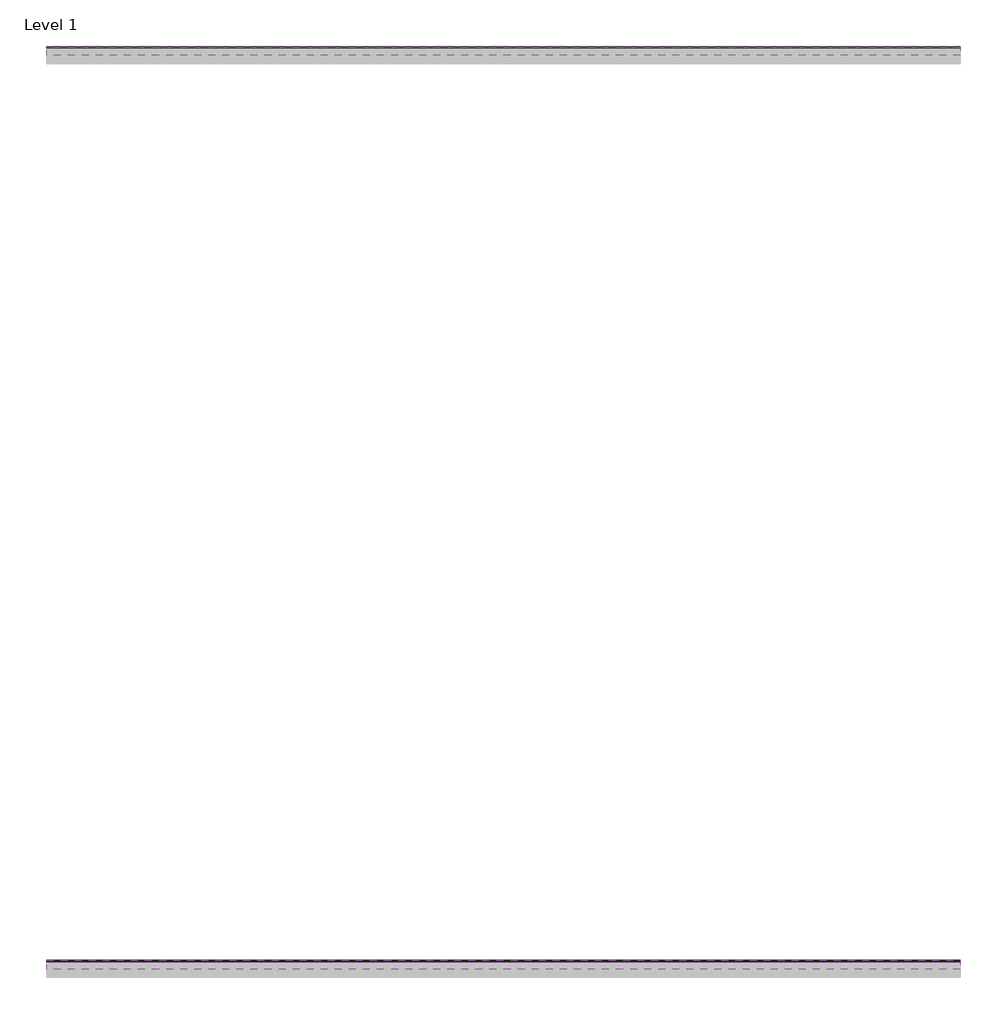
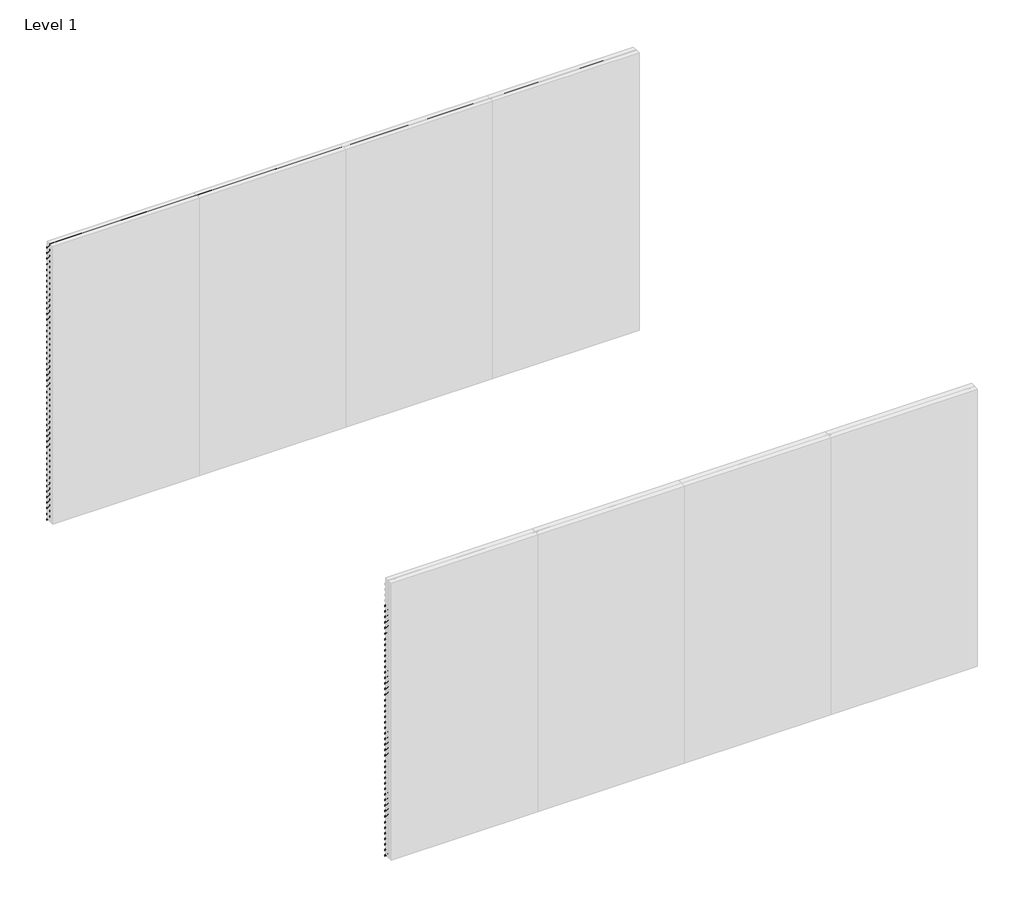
# One storey, part 3 of 3: 96 proxies.
"""IFC4 building model written with IfcOpenShell, lengths in millimetres."""

from ifc_helpers import new_model, si_unit, frame, origin, place, context, project, spatial, polyline, outline, extrude, element, save

model = new_model("IFC4")

# Units and contexts
model_context = context("Model", 3, world=origin())
ifc_project = project(units=[si_unit("LENGTHUNIT", "METRE", prefix="MILLI")], contexts=[model_context])

# Site, building, storey
site = spatial("IfcSite", under=ifc_project)
building = spatial("IfcBuilding", under=site)
storey = spatial("IfcBuildingStorey", under=building, Name="Level 1", Elevation=0.0)

# Proxies
placement = place(None, origin())
element("IfcBuildingElementProxy", 1, Name="Wall Sweeps", at=placement, inside=storey, context=model_context, shape_type="SweptSolid", body=[
    extrude(outline(polyline([(-1995.0, 3000.0), (-1995.0, 2998.0), (-1938.8, 2932.7), (-1938.8, 2916.7), (-1997.0, 2984.3238434), (-1997.0, 3000.0), (-1995.0, 3000.0)])), frame((0.0, 0.0, 0.0), z_axis=(1.0, 0.0, 0.0), x_axis=(0.0, 1.0, 0.0)), (0.0, 0.0, 1.0), 6000.0),
])
element("IfcBuildingElementProxy", 2, Name="Wall Sweeps", at=placement, inside=storey, context=model_context, shape_type="SweptSolid", body=[
    extrude(outline(polyline([(-1995.0, 2940.0), (-1995.0, 2938.0), (-1938.8, 2872.7), (-1938.8, 2856.7), (-1997.0, 2924.3238434), (-1997.0, 2940.0), (-1995.0, 2940.0)])), frame((0.0, 0.0, 0.0), z_axis=(1.0, 0.0, 0.0), x_axis=(0.0, 1.0, 0.0)), (0.0, 0.0, 1.0), 6000.0),
])
element("IfcBuildingElementProxy", 3, Name="Wall Sweeps", at=placement, inside=storey, context=model_context, shape_type="SweptSolid", body=[
    extrude(outline(polyline([(-1995.0, 2880.0), (-1995.0, 2878.0), (-1938.8, 2812.7), (-1938.8, 2796.7), (-1997.0, 2864.3238434), (-1997.0, 2880.0), (-1995.0, 2880.0)])), frame((0.0, 0.0, 0.0), z_axis=(1.0, 0.0, 0.0), x_axis=(0.0, 1.0, 0.0)), (0.0, 0.0, 1.0), 6000.0),
])
element("IfcBuildingElementProxy", 4, Name="Wall Sweeps", at=placement, inside=storey, context=model_context, shape_type="SweptSolid", body=[
    extrude(outline(polyline([(-1995.0, 2820.0), (-1995.0, 2818.0), (-1938.8, 2752.7), (-1938.8, 2736.7), (-1997.0, 2804.3238434), (-1997.0, 2820.0), (-1995.0, 2820.0)])), frame((0.0, 0.0, 0.0), z_axis=(1.0, 0.0, 0.0), x_axis=(0.0, 1.0, 0.0)), (0.0, 0.0, 1.0), 6000.0),
])
element("IfcBuildingElementProxy", 5, Name="Wall Sweeps", at=placement, inside=storey, context=model_context, shape_type="SweptSolid", body=[
    extrude(outline(polyline([(-1995.0, 2760.0), (-1995.0, 2758.0), (-1938.8, 2692.7), (-1938.8, 2676.7), (-1997.0, 2744.3238434), (-1997.0, 2760.0), (-1995.0, 2760.0)])), frame((0.0, 0.0, 0.0), z_axis=(1.0, 0.0, 0.0), x_axis=(0.0, 1.0, 0.0)), (0.0, 0.0, 1.0), 6000.0),
])
element("IfcBuildingElementProxy", 6, Name="Wall Sweeps", at=placement, inside=storey, context=model_context, shape_type="SweptSolid", body=[
    extrude(outline(polyline([(-1995.0, 2700.0), (-1995.0, 2698.0), (-1938.8, 2632.7), (-1938.8, 2616.7), (-1997.0, 2684.3238434), (-1997.0, 2700.0), (-1995.0, 2700.0)])), frame((0.0, 0.0, 0.0), z_axis=(1.0, 0.0, 0.0), x_axis=(0.0, 1.0, 0.0)), (0.0, 0.0, 1.0), 6000.0),
])
element("IfcBuildingElementProxy", 7, Name="Wall Sweeps", at=placement, inside=storey, context=model_context, shape_type="SweptSolid", body=[
    extrude(outline(polyline([(-1995.0, 2640.0), (-1995.0, 2638.0), (-1938.8, 2572.7), (-1938.8, 2556.7), (-1997.0, 2624.3238434), (-1997.0, 2640.0), (-1995.0, 2640.0)])), frame((0.0, 0.0, 0.0), z_axis=(1.0, 0.0, 0.0), x_axis=(0.0, 1.0, 0.0)), (0.0, 0.0, 1.0), 6000.0),
])
element("IfcBuildingElementProxy", 8, Name="Wall Sweeps", at=placement, inside=storey, context=model_context, shape_type="SweptSolid", body=[
    extrude(outline(polyline([(-1995.0, 2580.0), (-1995.0, 2578.0), (-1938.8, 2512.7), (-1938.8, 2496.7), (-1997.0, 2564.3238434), (-1997.0, 2580.0), (-1995.0, 2580.0)])), frame((0.0, 0.0, 0.0), z_axis=(1.0, 0.0, 0.0), x_axis=(0.0, 1.0, 0.0)), (0.0, 0.0, 1.0), 6000.0),
])
element("IfcBuildingElementProxy", 9, Name="Wall Sweeps", at=placement, inside=storey, context=model_context, shape_type="SweptSolid", body=[
    extrude(outline(polyline([(-1995.0, 2520.0), (-1995.0, 2518.0), (-1938.8, 2452.7), (-1938.8, 2436.7), (-1997.0, 2504.3238434), (-1997.0, 2520.0), (-1995.0, 2520.0)])), frame((0.0, 0.0, 0.0), z_axis=(1.0, 0.0, 0.0), x_axis=(0.0, 1.0, 0.0)), (0.0, 0.0, 1.0), 6000.0),
])
element("IfcBuildingElementProxy", 10, Name="Wall Sweeps", at=placement, inside=storey, context=model_context, shape_type="SweptSolid", body=[
    extrude(outline(polyline([(-1995.0, 2460.0), (-1995.0, 2458.0), (-1938.8, 2392.7), (-1938.8, 2376.7), (-1997.0, 2444.3238434), (-1997.0, 2460.0), (-1995.0, 2460.0)])), frame((0.0, 0.0, 0.0), z_axis=(1.0, 0.0, 0.0), x_axis=(0.0, 1.0, 0.0)), (0.0, 0.0, 1.0), 6000.0),
])
element("IfcBuildingElementProxy", 11, Name="Wall Sweeps", at=placement, inside=storey, context=model_context, shape_type="SweptSolid", body=[
    extrude(outline(polyline([(-1995.0, 2400.0), (-1995.0, 2398.0), (-1938.8, 2332.7), (-1938.8, 2316.7), (-1997.0, 2384.3238434), (-1997.0, 2400.0), (-1995.0, 2400.0)])), frame((0.0, 0.0, 0.0), z_axis=(1.0, 0.0, 0.0), x_axis=(0.0, 1.0, 0.0)), (0.0, 0.0, 1.0), 6000.0),
])
element("IfcBuildingElementProxy", 12, Name="Wall Sweeps", at=placement, inside=storey, context=model_context, shape_type="SweptSolid", body=[
    extrude(outline(polyline([(-1995.0, 2340.0), (-1995.0, 2338.0), (-1938.8, 2272.7), (-1938.8, 2256.7), (-1997.0, 2324.3238434), (-1997.0, 2340.0), (-1995.0, 2340.0)])), frame((0.0, 0.0, 0.0), z_axis=(1.0, 0.0, 0.0), x_axis=(0.0, 1.0, 0.0)), (0.0, 0.0, 1.0), 6000.0),
])
element("IfcBuildingElementProxy", 13, Name="Wall Sweeps", at=placement, inside=storey, context=model_context, shape_type="SweptSolid", body=[
    extrude(outline(polyline([(-1995.0, 2280.0), (-1995.0, 2278.0), (-1938.8, 2212.7), (-1938.8, 2196.7), (-1997.0, 2264.3238434), (-1997.0, 2280.0), (-1995.0, 2280.0)])), frame((0.0, 0.0, 0.0), z_axis=(1.0, 0.0, 0.0), x_axis=(0.0, 1.0, 0.0)), (0.0, 0.0, 1.0), 6000.0),
])
element("IfcBuildingElementProxy", 14, Name="Wall Sweeps", at=placement, inside=storey, context=model_context, shape_type="SweptSolid", body=[
    extrude(outline(polyline([(-1995.0, 2220.0), (-1995.0, 2218.0), (-1938.8, 2152.7), (-1938.8, 2136.7), (-1997.0, 2204.3238434), (-1997.0, 2220.0), (-1995.0, 2220.0)])), frame((0.0, 0.0, 0.0), z_axis=(1.0, 0.0, 0.0), x_axis=(0.0, 1.0, 0.0)), (0.0, 0.0, 1.0), 6000.0),
])
element("IfcBuildingElementProxy", 15, Name="Wall Sweeps", at=placement, inside=storey, context=model_context, shape_type="SweptSolid", body=[
    extrude(outline(polyline([(-1995.0, 2160.0), (-1995.0, 2158.0), (-1938.8, 2092.7), (-1938.8, 2076.7), (-1997.0, 2144.3238434), (-1997.0, 2160.0), (-1995.0, 2160.0)])), frame((0.0, 0.0, 0.0), z_axis=(1.0, 0.0, 0.0), x_axis=(0.0, 1.0, 0.0)), (0.0, 0.0, 1.0), 6000.0),
])
element("IfcBuildingElementProxy", 16, Name="Wall Sweeps", at=placement, inside=storey, context=model_context, shape_type="SweptSolid", body=[
    extrude(outline(polyline([(-1995.0, 2100.0), (-1995.0, 2098.0), (-1938.8, 2032.7), (-1938.8, 2016.7), (-1997.0, 2084.3238434), (-1997.0, 2100.0), (-1995.0, 2100.0)])), frame((0.0, 0.0, 0.0), z_axis=(1.0, 0.0, 0.0), x_axis=(0.0, 1.0, 0.0)), (0.0, 0.0, 1.0), 6000.0),
])
element("IfcBuildingElementProxy", 17, Name="Wall Sweeps", at=placement, inside=storey, context=model_context, shape_type="SweptSolid", body=[
    extrude(outline(polyline([(-1995.0, 2040.0), (-1995.0, 2038.0), (-1938.8, 1972.7), (-1938.8, 1956.7), (-1997.0, 2024.3238434), (-1997.0, 2040.0), (-1995.0, 2040.0)])), frame((0.0, 0.0, 0.0), z_axis=(1.0, 0.0, 0.0), x_axis=(0.0, 1.0, 0.0)), (0.0, 0.0, 1.0), 6000.0),
])
element("IfcBuildingElementProxy", 18, Name="Wall Sweeps", at=placement, inside=storey, context=model_context, shape_type="SweptSolid", body=[
    extrude(outline(polyline([(-1995.0, 1980.0), (-1995.0, 1978.0), (-1938.8, 1912.7), (-1938.8, 1896.7), (-1997.0, 1964.3238434), (-1997.0, 1980.0), (-1995.0, 1980.0)])), frame((0.0, 0.0, 0.0), z_axis=(1.0, 0.0, 0.0), x_axis=(0.0, 1.0, 0.0)), (0.0, 0.0, 1.0), 6000.0),
])
element("IfcBuildingElementProxy", 19, Name="Wall Sweeps", at=placement, inside=storey, context=model_context, shape_type="SweptSolid", body=[
    extrude(outline(polyline([(-1995.0, 1920.0), (-1995.0, 1918.0), (-1938.8, 1852.7), (-1938.8, 1836.7), (-1997.0, 1904.3238434), (-1997.0, 1920.0), (-1995.0, 1920.0)])), frame((0.0, 0.0, 0.0), z_axis=(1.0, 0.0, 0.0), x_axis=(0.0, 1.0, 0.0)), (0.0, 0.0, 1.0), 6000.0),
])
element("IfcBuildingElementProxy", 20, Name="Wall Sweeps", at=placement, inside=storey, context=model_context, shape_type="SweptSolid", body=[
    extrude(outline(polyline([(-1995.0, 1860.0), (-1995.0, 1858.0), (-1938.8, 1792.7), (-1938.8, 1776.7), (-1997.0, 1844.3238434), (-1997.0, 1860.0), (-1995.0, 1860.0)])), frame((0.0, 0.0, 0.0), z_axis=(1.0, 0.0, 0.0), x_axis=(0.0, 1.0, 0.0)), (0.0, 0.0, 1.0), 6000.0),
])
element("IfcBuildingElementProxy", 21, Name="Wall Sweeps", at=placement, inside=storey, context=model_context, shape_type="SweptSolid", body=[
    extrude(outline(polyline([(-1995.0, 1800.0), (-1995.0, 1798.0), (-1938.8, 1732.7), (-1938.8, 1716.7), (-1997.0, 1784.3238434), (-1997.0, 1800.0), (-1995.0, 1800.0)])), frame((0.0, 0.0, 0.0), z_axis=(1.0, 0.0, 0.0), x_axis=(0.0, 1.0, 0.0)), (0.0, 0.0, 1.0), 6000.0),
])
element("IfcBuildingElementProxy", 22, Name="Wall Sweeps", at=placement, inside=storey, context=model_context, shape_type="SweptSolid", body=[
    extrude(outline(polyline([(-1995.0, 1740.0), (-1995.0, 1738.0), (-1938.8, 1672.7), (-1938.8, 1656.7), (-1997.0, 1724.3238434), (-1997.0, 1740.0), (-1995.0, 1740.0)])), frame((0.0, 0.0, 0.0), z_axis=(1.0, 0.0, 0.0), x_axis=(0.0, 1.0, 0.0)), (0.0, 0.0, 1.0), 6000.0),
])
element("IfcBuildingElementProxy", 23, Name="Wall Sweeps", at=placement, inside=storey, context=model_context, shape_type="SweptSolid", body=[
    extrude(outline(polyline([(-1995.0, 1680.0), (-1995.0, 1678.0), (-1938.8, 1612.7), (-1938.8, 1596.7), (-1997.0, 1664.3238434), (-1997.0, 1680.0), (-1995.0, 1680.0)])), frame((0.0, 0.0, 0.0), z_axis=(1.0, 0.0, 0.0), x_axis=(0.0, 1.0, 0.0)), (0.0, 0.0, 1.0), 6000.0),
])
element("IfcBuildingElementProxy", 24, Name="Wall Sweeps", at=placement, inside=storey, context=model_context, shape_type="SweptSolid", body=[
    extrude(outline(polyline([(-1995.0, 1620.0), (-1995.0, 1618.0), (-1938.8, 1552.7), (-1938.8, 1536.7), (-1997.0, 1604.3238434), (-1997.0, 1620.0), (-1995.0, 1620.0)])), frame((0.0, 0.0, 0.0), z_axis=(1.0, 0.0, 0.0), x_axis=(0.0, 1.0, 0.0)), (0.0, 0.0, 1.0), 6000.0),
])
element("IfcBuildingElementProxy", 25, Name="Wall Sweeps", at=placement, inside=storey, context=model_context, shape_type="SweptSolid", body=[
    extrude(outline(polyline([(-1995.0, 1560.0), (-1995.0, 1558.0), (-1938.8, 1492.7), (-1938.8, 1476.7), (-1997.0, 1544.3238434), (-1997.0, 1560.0), (-1995.0, 1560.0)])), frame((0.0, 0.0, 0.0), z_axis=(1.0, 0.0, 0.0), x_axis=(0.0, 1.0, 0.0)), (0.0, 0.0, 1.0), 6000.0),
])
element("IfcBuildingElementProxy", 26, Name="Wall Sweeps", at=placement, inside=storey, context=model_context, shape_type="SweptSolid", body=[
    extrude(outline(polyline([(-1995.0, 1500.0), (-1995.0, 1498.0), (-1938.8, 1432.7), (-1938.8, 1416.7), (-1997.0, 1484.3238434), (-1997.0, 1500.0), (-1995.0, 1500.0)])), frame((0.0, 0.0, 0.0), z_axis=(1.0, 0.0, 0.0), x_axis=(0.0, 1.0, 0.0)), (0.0, 0.0, 1.0), 6000.0),
])
element("IfcBuildingElementProxy", 27, Name="Wall Sweeps", at=placement, inside=storey, context=model_context, shape_type="SweptSolid", body=[
    extrude(outline(polyline([(-1995.0, 1440.0), (-1995.0, 1438.0), (-1938.8, 1372.7), (-1938.8, 1356.7), (-1997.0, 1424.3238434), (-1997.0, 1440.0), (-1995.0, 1440.0)])), frame((0.0, 0.0, 0.0), z_axis=(1.0, 0.0, 0.0), x_axis=(0.0, 1.0, 0.0)), (0.0, 0.0, 1.0), 6000.0),
])
element("IfcBuildingElementProxy", 28, Name="Wall Sweeps", at=placement, inside=storey, context=model_context, shape_type="SweptSolid", body=[
    extrude(outline(polyline([(-1995.0, 1380.0), (-1995.0, 1378.0), (-1938.8, 1312.7), (-1938.8, 1296.7), (-1997.0, 1364.3238434), (-1997.0, 1380.0), (-1995.0, 1380.0)])), frame((0.0, 0.0, 0.0), z_axis=(1.0, 0.0, 0.0), x_axis=(0.0, 1.0, 0.0)), (0.0, 0.0, 1.0), 6000.0),
])
element("IfcBuildingElementProxy", 29, Name="Wall Sweeps", at=placement, inside=storey, context=model_context, shape_type="SweptSolid", body=[
    extrude(outline(polyline([(-1995.0, 1320.0), (-1995.0, 1318.0), (-1938.8, 1252.7), (-1938.8, 1236.7), (-1997.0, 1304.3238434), (-1997.0, 1320.0), (-1995.0, 1320.0)])), frame((0.0, 0.0, 0.0), z_axis=(1.0, 0.0, 0.0), x_axis=(0.0, 1.0, 0.0)), (0.0, 0.0, 1.0), 6000.0),
])
element("IfcBuildingElementProxy", 30, Name="Wall Sweeps", at=placement, inside=storey, context=model_context, shape_type="SweptSolid", body=[
    extrude(outline(polyline([(-1995.0, 1260.0), (-1995.0, 1258.0), (-1938.8, 1192.7), (-1938.8, 1176.7), (-1997.0, 1244.3238434), (-1997.0, 1260.0), (-1995.0, 1260.0)])), frame((0.0, 0.0, 0.0), z_axis=(1.0, 0.0, 0.0), x_axis=(0.0, 1.0, 0.0)), (0.0, 0.0, 1.0), 6000.0),
])
element("IfcBuildingElementProxy", 31, Name="Wall Sweeps", at=placement, inside=storey, context=model_context, shape_type="SweptSolid", body=[
    extrude(outline(polyline([(-1995.0, 1200.0), (-1995.0, 1198.0), (-1938.8, 1132.7), (-1938.8, 1116.7), (-1997.0, 1184.3238434), (-1997.0, 1200.0), (-1995.0, 1200.0)])), frame((0.0, 0.0, 0.0), z_axis=(1.0, 0.0, 0.0), x_axis=(0.0, 1.0, 0.0)), (0.0, 0.0, 1.0), 6000.0),
])
element("IfcBuildingElementProxy", 32, Name="Wall Sweeps", at=placement, inside=storey, context=model_context, shape_type="SweptSolid", body=[
    extrude(outline(polyline([(-1995.0, 1140.0), (-1995.0, 1138.0), (-1938.8, 1072.7), (-1938.8, 1056.7), (-1997.0, 1124.3238434), (-1997.0, 1140.0), (-1995.0, 1140.0)])), frame((0.0, 0.0, 0.0), z_axis=(1.0, 0.0, 0.0), x_axis=(0.0, 1.0, 0.0)), (0.0, 0.0, 1.0), 6000.0),
])
element("IfcBuildingElementProxy", 33, Name="Wall Sweeps", at=placement, inside=storey, context=model_context, shape_type="SweptSolid", body=[
    extrude(outline(polyline([(-1995.0, 1080.0), (-1995.0, 1078.0), (-1938.8, 1012.7), (-1938.8, 996.7), (-1997.0, 1064.3238434), (-1997.0, 1080.0), (-1995.0, 1080.0)])), frame((0.0, 0.0, 0.0), z_axis=(1.0, 0.0, 0.0), x_axis=(0.0, 1.0, 0.0)), (0.0, 0.0, 1.0), 6000.0),
])
element("IfcBuildingElementProxy", 34, Name="Wall Sweeps", at=placement, inside=storey, context=model_context, shape_type="SweptSolid", body=[
    extrude(outline(polyline([(-1995.0, 1020.0), (-1995.0, 1018.0), (-1938.8, 952.7), (-1938.8, 936.7), (-1997.0, 1004.3238434), (-1997.0, 1020.0), (-1995.0, 1020.0)])), frame((0.0, 0.0, 0.0), z_axis=(1.0, 0.0, 0.0), x_axis=(0.0, 1.0, 0.0)), (0.0, 0.0, 1.0), 6000.0),
])
element("IfcBuildingElementProxy", 35, Name="Wall Sweeps", at=placement, inside=storey, context=model_context, shape_type="SweptSolid", body=[
    extrude(outline(polyline([(-1995.0, 960.0), (-1995.0, 958.0), (-1938.8, 892.7), (-1938.8, 876.7), (-1997.0, 944.3238434), (-1997.0, 960.0), (-1995.0, 960.0)])), frame((0.0, 0.0, 0.0), z_axis=(1.0, 0.0, 0.0), x_axis=(0.0, 1.0, 0.0)), (0.0, 0.0, 1.0), 6000.0),
])
element("IfcBuildingElementProxy", 36, Name="Wall Sweeps", at=placement, inside=storey, context=model_context, shape_type="SweptSolid", body=[
    extrude(outline(polyline([(-1995.0, 900.0), (-1995.0, 898.0), (-1938.8, 832.7), (-1938.8, 816.7), (-1997.0, 884.3238434), (-1997.0, 900.0), (-1995.0, 900.0)])), frame((0.0, 0.0, 0.0), z_axis=(1.0, 0.0, 0.0), x_axis=(0.0, 1.0, 0.0)), (0.0, 0.0, 1.0), 6000.0),
])
element("IfcBuildingElementProxy", 37, Name="Wall Sweeps", at=placement, inside=storey, context=model_context, shape_type="SweptSolid", body=[
    extrude(outline(polyline([(-1995.0, 840.0), (-1995.0, 838.0), (-1938.8, 772.7), (-1938.8, 756.7), (-1997.0, 824.3238434), (-1997.0, 840.0), (-1995.0, 840.0)])), frame((0.0, 0.0, 0.0), z_axis=(1.0, 0.0, 0.0), x_axis=(0.0, 1.0, 0.0)), (0.0, 0.0, 1.0), 6000.0),
])
element("IfcBuildingElementProxy", 38, Name="Wall Sweeps", at=placement, inside=storey, context=model_context, shape_type="SweptSolid", body=[
    extrude(outline(polyline([(-1995.0, 780.0), (-1995.0, 778.0), (-1938.8, 712.7), (-1938.8, 696.7), (-1997.0, 764.3238434), (-1997.0, 780.0), (-1995.0, 780.0)])), frame((0.0, 0.0, 0.0), z_axis=(1.0, 0.0, 0.0), x_axis=(0.0, 1.0, 0.0)), (0.0, 0.0, 1.0), 6000.0),
])
element("IfcBuildingElementProxy", 39, Name="Wall Sweeps", at=placement, inside=storey, context=model_context, shape_type="SweptSolid", body=[
    extrude(outline(polyline([(-1995.0, 720.0), (-1995.0, 718.0), (-1938.8, 652.7), (-1938.8, 636.7), (-1997.0, 704.3238434), (-1997.0, 720.0), (-1995.0, 720.0)])), frame((0.0, 0.0, 0.0), z_axis=(1.0, 0.0, 0.0), x_axis=(0.0, 1.0, 0.0)), (0.0, 0.0, 1.0), 6000.0),
])
element("IfcBuildingElementProxy", 40, Name="Wall Sweeps", at=placement, inside=storey, context=model_context, shape_type="SweptSolid", body=[
    extrude(outline(polyline([(-1995.0, 660.0), (-1995.0, 658.0), (-1938.8, 592.7), (-1938.8, 576.7), (-1997.0, 644.3238434), (-1997.0, 660.0), (-1995.0, 660.0)])), frame((0.0, 0.0, 0.0), z_axis=(1.0, 0.0, 0.0), x_axis=(0.0, 1.0, 0.0)), (0.0, 0.0, 1.0), 6000.0),
])
element("IfcBuildingElementProxy", 41, Name="Wall Sweeps", at=placement, inside=storey, context=model_context, shape_type="SweptSolid", body=[
    extrude(outline(polyline([(-1995.0, 600.0), (-1995.0, 598.0), (-1938.8, 532.7), (-1938.8, 516.7), (-1997.0, 584.3238434), (-1997.0, 600.0), (-1995.0, 600.0)])), frame((0.0, 0.0, 0.0), z_axis=(1.0, 0.0, 0.0), x_axis=(0.0, 1.0, 0.0)), (0.0, 0.0, 1.0), 6000.0),
])
element("IfcBuildingElementProxy", 42, Name="Wall Sweeps", at=placement, inside=storey, context=model_context, shape_type="SweptSolid", body=[
    extrude(outline(polyline([(-1995.0, 540.0), (-1995.0, 538.0), (-1938.8, 472.7), (-1938.8, 456.7), (-1997.0, 524.3238434), (-1997.0, 540.0), (-1995.0, 540.0)])), frame((0.0, 0.0, 0.0), z_axis=(1.0, 0.0, 0.0), x_axis=(0.0, 1.0, 0.0)), (0.0, 0.0, 1.0), 6000.0),
])
element("IfcBuildingElementProxy", 43, Name="Wall Sweeps", at=placement, inside=storey, context=model_context, shape_type="SweptSolid", body=[
    extrude(outline(polyline([(-1995.0, 480.0), (-1995.0, 478.0), (-1938.8, 412.7), (-1938.8, 396.7), (-1997.0, 464.3238434), (-1997.0, 480.0), (-1995.0, 480.0)])), frame((0.0, 0.0, 0.0), z_axis=(1.0, 0.0, 0.0), x_axis=(0.0, 1.0, 0.0)), (0.0, 0.0, 1.0), 6000.0),
])
element("IfcBuildingElementProxy", 44, Name="Wall Sweeps", at=placement, inside=storey, context=model_context, shape_type="SweptSolid", body=[
    extrude(outline(polyline([(-1995.0, 420.0), (-1995.0, 418.0), (-1938.8, 352.7), (-1938.8, 336.7), (-1997.0, 404.3238434), (-1997.0, 420.0), (-1995.0, 420.0)])), frame((0.0, 0.0, 0.0), z_axis=(1.0, 0.0, 0.0), x_axis=(0.0, 1.0, 0.0)), (0.0, 0.0, 1.0), 6000.0),
])
element("IfcBuildingElementProxy", 45, Name="Wall Sweeps", at=placement, inside=storey, context=model_context, shape_type="SweptSolid", body=[
    extrude(outline(polyline([(-1995.0, 360.0), (-1995.0, 358.0), (-1938.8, 292.7), (-1938.8, 276.7), (-1997.0, 344.3238434), (-1997.0, 360.0), (-1995.0, 360.0)])), frame((0.0, 0.0, 0.0), z_axis=(1.0, 0.0, 0.0), x_axis=(0.0, 1.0, 0.0)), (0.0, 0.0, 1.0), 6000.0),
])
element("IfcBuildingElementProxy", 46, Name="Wall Sweeps", at=placement, inside=storey, context=model_context, shape_type="SweptSolid", body=[
    extrude(outline(polyline([(-1995.0, 300.0), (-1995.0, 298.0), (-1938.8, 232.7), (-1938.8, 216.7), (-1997.0, 284.3238434), (-1997.0, 300.0), (-1995.0, 300.0)])), frame((0.0, 0.0, 0.0), z_axis=(1.0, 0.0, 0.0), x_axis=(0.0, 1.0, 0.0)), (0.0, 0.0, 1.0), 6000.0),
])
element("IfcBuildingElementProxy", 47, Name="Wall Sweeps", at=placement, inside=storey, context=model_context, shape_type="SweptSolid", body=[
    extrude(outline(polyline([(-1995.0, 240.0), (-1995.0, 238.0), (-1938.8, 172.7), (-1938.8, 156.7), (-1997.0, 224.3238434), (-1997.0, 240.0), (-1995.0, 240.0)])), frame((0.0, 0.0, 0.0), z_axis=(1.0, 0.0, 0.0), x_axis=(0.0, 1.0, 0.0)), (0.0, 0.0, 1.0), 6000.0),
])
element("IfcBuildingElementProxy", 48, Name="Wall Sweeps", at=placement, inside=storey, context=model_context, shape_type="SweptSolid", body=[
    extrude(outline(polyline([(-1995.0, 180.0), (-1995.0, 178.0), (-1938.8, 112.7), (-1938.8, 96.7), (-1997.0, 164.3238434), (-1997.0, 180.0), (-1995.0, 180.0)])), frame((0.0, 0.0, 0.0), z_axis=(1.0, 0.0, 0.0), x_axis=(0.0, 1.0, 0.0)), (0.0, 0.0, 1.0), 6000.0),
])
element("IfcBuildingElementProxy", 49, Name="Wall Sweeps", at=placement, inside=storey, context=model_context, shape_type="SweptSolid", body=[
    extrude(outline(polyline([(-1995.0, 120.0), (-1995.0, 118.0), (-1938.8, 52.7), (-1938.8, 36.7), (-1997.0, 104.3238434), (-1997.0, 120.0), (-1995.0, 120.0)])), frame((0.0, 0.0, 0.0), z_axis=(1.0, 0.0, 0.0), x_axis=(0.0, 1.0, 0.0)), (0.0, 0.0, 1.0), 6000.0),
])
element("IfcBuildingElementProxy", 50, Name="Wall Sweeps", at=placement, inside=storey, context=model_context, shape_type="SweptSolid", body=[
    extrude(outline(polyline([(-1995.0, 60.0), (-1995.0, 58.0), (-1938.8, -7.3), (-1938.8, -23.3), (-1997.0, 44.3238434), (-1997.0, 60.0), (-1995.0, 60.0)])), frame((0.0, 0.0, 0.0), z_axis=(1.0, 0.0, 0.0), x_axis=(0.0, 1.0, 0.0)), (0.0, 0.0, 1.0), 6000.0),
])
element("IfcBuildingElementProxy", 51, Name="Wall Sweeps", at=placement, inside=storey, context=model_context, shape_type="SweptSolid", body=[
    extrude(outline(polyline([(-7995.0, 2760.0), (-7995.0, 2758.0), (-7938.8, 2692.7), (-7938.8, 2676.7), (-7997.0, 2744.3238434), (-7997.0, 2760.0), (-7995.0, 2760.0)])), frame((0.0, 0.0, 0.0), z_axis=(1.0, 0.0, 0.0), x_axis=(0.0, 1.0, 0.0)), (0.0, 0.0, 1.0), 6000.0),
])
element("IfcBuildingElementProxy", 52, Name="Wall Sweeps", at=placement, inside=storey, context=model_context, shape_type="SweptSolid", body=[
    extrude(outline(polyline([(-7995.0, 2700.0), (-7995.0, 2698.0), (-7938.8, 2632.7), (-7938.8, 2616.7), (-7997.0, 2684.3238434), (-7997.0, 2700.0), (-7995.0, 2700.0)])), frame((0.0, 0.0, 0.0), z_axis=(1.0, 0.0, 0.0), x_axis=(0.0, 1.0, 0.0)), (0.0, 0.0, 1.0), 6000.0),
])
element("IfcBuildingElementProxy", 53, Name="Wall Sweeps", at=placement, inside=storey, context=model_context, shape_type="SweptSolid", body=[
    extrude(outline(polyline([(-7995.0, 2640.0), (-7995.0, 2638.0), (-7938.8, 2572.7), (-7938.8, 2556.7), (-7997.0, 2624.3238434), (-7997.0, 2640.0), (-7995.0, 2640.0)])), frame((0.0, 0.0, 0.0), z_axis=(1.0, 0.0, 0.0), x_axis=(0.0, 1.0, 0.0)), (0.0, 0.0, 1.0), 6000.0),
])
element("IfcBuildingElementProxy", 54, Name="Wall Sweeps", at=placement, inside=storey, context=model_context, shape_type="SweptSolid", body=[
    extrude(outline(polyline([(-7995.0, 2580.0), (-7995.0, 2578.0), (-7938.8, 2512.7), (-7938.8, 2496.7), (-7997.0, 2564.3238434), (-7997.0, 2580.0), (-7995.0, 2580.0)])), frame((0.0, 0.0, 0.0), z_axis=(1.0, 0.0, 0.0), x_axis=(0.0, 1.0, 0.0)), (0.0, 0.0, 1.0), 6000.0),
])
element("IfcBuildingElementProxy", 55, Name="Wall Sweeps", at=placement, inside=storey, context=model_context, shape_type="SweptSolid", body=[
    extrude(outline(polyline([(-7995.0, 2520.0), (-7995.0, 2518.0), (-7938.8, 2452.7), (-7938.8, 2436.7), (-7997.0, 2504.3238434), (-7997.0, 2520.0), (-7995.0, 2520.0)])), frame((0.0, 0.0, 0.0), z_axis=(1.0, 0.0, 0.0), x_axis=(0.0, 1.0, 0.0)), (0.0, 0.0, 1.0), 6000.0),
])
element("IfcBuildingElementProxy", 56, Name="Wall Sweeps", at=placement, inside=storey, context=model_context, shape_type="SweptSolid", body=[
    extrude(outline(polyline([(-7995.0, 2460.0), (-7995.0, 2458.0), (-7938.8, 2392.7), (-7938.8, 2376.7), (-7997.0, 2444.3238434), (-7997.0, 2460.0), (-7995.0, 2460.0)])), frame((0.0, 0.0, 0.0), z_axis=(1.0, 0.0, 0.0), x_axis=(0.0, 1.0, 0.0)), (0.0, 0.0, 1.0), 6000.0),
])
element("IfcBuildingElementProxy", 57, Name="Wall Sweeps", at=placement, inside=storey, context=model_context, shape_type="SweptSolid", body=[
    extrude(outline(polyline([(-7995.0, 2400.0), (-7995.0, 2398.0), (-7938.8, 2332.7), (-7938.8, 2316.7), (-7997.0, 2384.3238434), (-7997.0, 2400.0), (-7995.0, 2400.0)])), frame((0.0, 0.0, 0.0), z_axis=(1.0, 0.0, 0.0), x_axis=(0.0, 1.0, 0.0)), (0.0, 0.0, 1.0), 6000.0),
])
element("IfcBuildingElementProxy", 58, Name="Wall Sweeps", at=placement, inside=storey, context=model_context, shape_type="SweptSolid", body=[
    extrude(outline(polyline([(-7995.0, 2340.0), (-7995.0, 2338.0), (-7938.8, 2272.7), (-7938.8, 2256.7), (-7997.0, 2324.3238434), (-7997.0, 2340.0), (-7995.0, 2340.0)])), frame((0.0, 0.0, 0.0), z_axis=(1.0, 0.0, 0.0), x_axis=(0.0, 1.0, 0.0)), (0.0, 0.0, 1.0), 6000.0),
])
element("IfcBuildingElementProxy", 59, Name="Wall Sweeps", at=placement, inside=storey, context=model_context, shape_type="SweptSolid", body=[
    extrude(outline(polyline([(-7995.0, 2280.0), (-7995.0, 2278.0), (-7938.8, 2212.7), (-7938.8, 2196.7), (-7997.0, 2264.3238434), (-7997.0, 2280.0), (-7995.0, 2280.0)])), frame((0.0, 0.0, 0.0), z_axis=(1.0, 0.0, 0.0), x_axis=(0.0, 1.0, 0.0)), (0.0, 0.0, 1.0), 6000.0),
])
element("IfcBuildingElementProxy", 60, Name="Wall Sweeps", at=placement, inside=storey, context=model_context, shape_type="SweptSolid", body=[
    extrude(outline(polyline([(-7995.0, 2220.0), (-7995.0, 2218.0), (-7938.8, 2152.7), (-7938.8, 2136.7), (-7997.0, 2204.3238434), (-7997.0, 2220.0), (-7995.0, 2220.0)])), frame((0.0, 0.0, 0.0), z_axis=(1.0, 0.0, 0.0), x_axis=(0.0, 1.0, 0.0)), (0.0, 0.0, 1.0), 6000.0),
])
element("IfcBuildingElementProxy", 61, Name="Wall Sweeps", at=placement, inside=storey, context=model_context, shape_type="SweptSolid", body=[
    extrude(outline(polyline([(-7995.0, 2160.0), (-7995.0, 2158.0), (-7938.8, 2092.7), (-7938.8, 2076.7), (-7997.0, 2144.3238434), (-7997.0, 2160.0), (-7995.0, 2160.0)])), frame((0.0, 0.0, 0.0), z_axis=(1.0, 0.0, 0.0), x_axis=(0.0, 1.0, 0.0)), (0.0, 0.0, 1.0), 6000.0),
])
element("IfcBuildingElementProxy", 62, Name="Wall Sweeps", at=placement, inside=storey, context=model_context, shape_type="SweptSolid", body=[
    extrude(outline(polyline([(-7995.0, 2100.0), (-7995.0, 2098.0), (-7938.8, 2032.7), (-7938.8, 2016.7), (-7997.0, 2084.3238434), (-7997.0, 2100.0), (-7995.0, 2100.0)])), frame((0.0, 0.0, 0.0), z_axis=(1.0, 0.0, 0.0), x_axis=(0.0, 1.0, 0.0)), (0.0, 0.0, 1.0), 6000.0),
])
element("IfcBuildingElementProxy", 63, Name="Wall Sweeps", at=placement, inside=storey, context=model_context, shape_type="SweptSolid", body=[
    extrude(outline(polyline([(-7995.0, 2040.0), (-7995.0, 2038.0), (-7938.8, 1972.7), (-7938.8, 1956.7), (-7997.0, 2024.3238434), (-7997.0, 2040.0), (-7995.0, 2040.0)])), frame((0.0, 0.0, 0.0), z_axis=(1.0, 0.0, 0.0), x_axis=(0.0, 1.0, 0.0)), (0.0, 0.0, 1.0), 6000.0),
])
element("IfcBuildingElementProxy", 64, Name="Wall Sweeps", at=placement, inside=storey, context=model_context, shape_type="SweptSolid", body=[
    extrude(outline(polyline([(-7995.0, 1980.0), (-7995.0, 1978.0), (-7938.8, 1912.7), (-7938.8, 1896.7), (-7997.0, 1964.3238434), (-7997.0, 1980.0), (-7995.0, 1980.0)])), frame((0.0, 0.0, 0.0), z_axis=(1.0, 0.0, 0.0), x_axis=(0.0, 1.0, 0.0)), (0.0, 0.0, 1.0), 6000.0),
])
element("IfcBuildingElementProxy", 65, Name="Wall Sweeps", at=placement, inside=storey, context=model_context, shape_type="SweptSolid", body=[
    extrude(outline(polyline([(-7995.0, 1920.0), (-7995.0, 1918.0), (-7938.8, 1852.7), (-7938.8, 1836.7), (-7997.0, 1904.3238434), (-7997.0, 1920.0), (-7995.0, 1920.0)])), frame((0.0, 0.0, 0.0), z_axis=(1.0, 0.0, 0.0), x_axis=(0.0, 1.0, 0.0)), (0.0, 0.0, 1.0), 6000.0),
])
element("IfcBuildingElementProxy", 66, Name="Wall Sweeps", at=placement, inside=storey, context=model_context, shape_type="SweptSolid", body=[
    extrude(outline(polyline([(-7995.0, 1860.0), (-7995.0, 1858.0), (-7938.8, 1792.7), (-7938.8, 1776.7), (-7997.0, 1844.3238434), (-7997.0, 1860.0), (-7995.0, 1860.0)])), frame((0.0, 0.0, 0.0), z_axis=(1.0, 0.0, 0.0), x_axis=(0.0, 1.0, 0.0)), (0.0, 0.0, 1.0), 6000.0),
])
element("IfcBuildingElementProxy", 67, Name="Wall Sweeps", at=placement, inside=storey, context=model_context, shape_type="SweptSolid", body=[
    extrude(outline(polyline([(-7995.0, 1800.0), (-7995.0, 1798.0), (-7938.8, 1732.7), (-7938.8, 1716.7), (-7997.0, 1784.3238434), (-7997.0, 1800.0), (-7995.0, 1800.0)])), frame((0.0, 0.0, 0.0), z_axis=(1.0, 0.0, 0.0), x_axis=(0.0, 1.0, 0.0)), (0.0, 0.0, 1.0), 6000.0),
])
element("IfcBuildingElementProxy", 68, Name="Wall Sweeps", at=placement, inside=storey, context=model_context, shape_type="SweptSolid", body=[
    extrude(outline(polyline([(-7995.0, 1740.0), (-7995.0, 1738.0), (-7938.8, 1672.7), (-7938.8, 1656.7), (-7997.0, 1724.3238434), (-7997.0, 1740.0), (-7995.0, 1740.0)])), frame((0.0, 0.0, 0.0), z_axis=(1.0, 0.0, 0.0), x_axis=(0.0, 1.0, 0.0)), (0.0, 0.0, 1.0), 6000.0),
])
element("IfcBuildingElementProxy", 69, Name="Wall Sweeps", at=placement, inside=storey, context=model_context, shape_type="SweptSolid", body=[
    extrude(outline(polyline([(-7995.0, 1680.0), (-7995.0, 1678.0), (-7938.8, 1612.7), (-7938.8, 1596.7), (-7997.0, 1664.3238434), (-7997.0, 1680.0), (-7995.0, 1680.0)])), frame((0.0, 0.0, 0.0), z_axis=(1.0, 0.0, 0.0), x_axis=(0.0, 1.0, 0.0)), (0.0, 0.0, 1.0), 6000.0),
])
element("IfcBuildingElementProxy", 70, Name="Wall Sweeps", at=placement, inside=storey, context=model_context, shape_type="SweptSolid", body=[
    extrude(outline(polyline([(-7995.0, 1620.0), (-7995.0, 1618.0), (-7938.8, 1552.7), (-7938.8, 1536.7), (-7997.0, 1604.3238434), (-7997.0, 1620.0), (-7995.0, 1620.0)])), frame((0.0, 0.0, 0.0), z_axis=(1.0, 0.0, 0.0), x_axis=(0.0, 1.0, 0.0)), (0.0, 0.0, 1.0), 6000.0),
])
element("IfcBuildingElementProxy", 71, Name="Wall Sweeps", at=placement, inside=storey, context=model_context, shape_type="SweptSolid", body=[
    extrude(outline(polyline([(-7995.0, 1560.0), (-7995.0, 1558.0), (-7938.8, 1492.7), (-7938.8, 1476.7), (-7997.0, 1544.3238434), (-7997.0, 1560.0), (-7995.0, 1560.0)])), frame((0.0, 0.0, 0.0), z_axis=(1.0, 0.0, 0.0), x_axis=(0.0, 1.0, 0.0)), (0.0, 0.0, 1.0), 6000.0),
])
element("IfcBuildingElementProxy", 72, Name="Wall Sweeps", at=placement, inside=storey, context=model_context, shape_type="SweptSolid", body=[
    extrude(outline(polyline([(-7995.0, 1500.0), (-7995.0, 1498.0), (-7938.8, 1432.7), (-7938.8, 1416.7), (-7997.0, 1484.3238434), (-7997.0, 1500.0), (-7995.0, 1500.0)])), frame((0.0, 0.0, 0.0), z_axis=(1.0, 0.0, 0.0), x_axis=(0.0, 1.0, 0.0)), (0.0, 0.0, 1.0), 6000.0),
])
element("IfcBuildingElementProxy", 73, Name="Wall Sweeps", at=placement, inside=storey, context=model_context, shape_type="SweptSolid", body=[
    extrude(outline(polyline([(-7995.0, 1440.0), (-7995.0, 1438.0), (-7938.8, 1372.7), (-7938.8, 1356.7), (-7997.0, 1424.3238434), (-7997.0, 1440.0), (-7995.0, 1440.0)])), frame((0.0, 0.0, 0.0), z_axis=(1.0, 0.0, 0.0), x_axis=(0.0, 1.0, 0.0)), (0.0, 0.0, 1.0), 6000.0),
])
element("IfcBuildingElementProxy", 74, Name="Wall Sweeps", at=placement, inside=storey, context=model_context, shape_type="SweptSolid", body=[
    extrude(outline(polyline([(-7995.0, 1380.0), (-7995.0, 1378.0), (-7938.8, 1312.7), (-7938.8, 1296.7), (-7997.0, 1364.3238434), (-7997.0, 1380.0), (-7995.0, 1380.0)])), frame((0.0, 0.0, 0.0), z_axis=(1.0, 0.0, 0.0), x_axis=(0.0, 1.0, 0.0)), (0.0, 0.0, 1.0), 6000.0),
])
element("IfcBuildingElementProxy", 75, Name="Wall Sweeps", at=placement, inside=storey, context=model_context, shape_type="SweptSolid", body=[
    extrude(outline(polyline([(-7995.0, 1320.0), (-7995.0, 1318.0), (-7938.8, 1252.7), (-7938.8, 1236.7), (-7997.0, 1304.3238434), (-7997.0, 1320.0), (-7995.0, 1320.0)])), frame((0.0, 0.0, 0.0), z_axis=(1.0, 0.0, 0.0), x_axis=(0.0, 1.0, 0.0)), (0.0, 0.0, 1.0), 6000.0),
])
element("IfcBuildingElementProxy", 76, Name="Wall Sweeps", at=placement, inside=storey, context=model_context, shape_type="SweptSolid", body=[
    extrude(outline(polyline([(-7995.0, 1260.0), (-7995.0, 1258.0), (-7938.8, 1192.7), (-7938.8, 1176.7), (-7997.0, 1244.3238434), (-7997.0, 1260.0), (-7995.0, 1260.0)])), frame((0.0, 0.0, 0.0), z_axis=(1.0, 0.0, 0.0), x_axis=(0.0, 1.0, 0.0)), (0.0, 0.0, 1.0), 6000.0),
])
element("IfcBuildingElementProxy", 77, Name="Wall Sweeps", at=placement, inside=storey, context=model_context, shape_type="SweptSolid", body=[
    extrude(outline(polyline([(-7995.0, 1200.0), (-7995.0, 1198.0), (-7938.8, 1132.7), (-7938.8, 1116.7), (-7997.0, 1184.3238434), (-7997.0, 1200.0), (-7995.0, 1200.0)])), frame((0.0, 0.0, 0.0), z_axis=(1.0, 0.0, 0.0), x_axis=(0.0, 1.0, 0.0)), (0.0, 0.0, 1.0), 6000.0),
])
element("IfcBuildingElementProxy", 78, Name="Wall Sweeps", at=placement, inside=storey, context=model_context, shape_type="SweptSolid", body=[
    extrude(outline(polyline([(-7995.0, 1140.0), (-7995.0, 1138.0), (-7938.8, 1072.7), (-7938.8, 1056.7), (-7997.0, 1124.3238434), (-7997.0, 1140.0), (-7995.0, 1140.0)])), frame((0.0, 0.0, 0.0), z_axis=(1.0, 0.0, 0.0), x_axis=(0.0, 1.0, 0.0)), (0.0, 0.0, 1.0), 6000.0),
])
element("IfcBuildingElementProxy", 79, Name="Wall Sweeps", at=placement, inside=storey, context=model_context, shape_type="SweptSolid", body=[
    extrude(outline(polyline([(-7995.0, 1080.0), (-7995.0, 1078.0), (-7938.8, 1012.7), (-7938.8, 996.7), (-7997.0, 1064.3238434), (-7997.0, 1080.0), (-7995.0, 1080.0)])), frame((0.0, 0.0, 0.0), z_axis=(1.0, 0.0, 0.0), x_axis=(0.0, 1.0, 0.0)), (0.0, 0.0, 1.0), 6000.0),
])
element("IfcBuildingElementProxy", 80, Name="Wall Sweeps", at=placement, inside=storey, context=model_context, shape_type="SweptSolid", body=[
    extrude(outline(polyline([(-7995.0, 1020.0), (-7995.0, 1018.0), (-7938.8, 952.7), (-7938.8, 936.7), (-7997.0, 1004.3238434), (-7997.0, 1020.0), (-7995.0, 1020.0)])), frame((0.0, 0.0, 0.0), z_axis=(1.0, 0.0, 0.0), x_axis=(0.0, 1.0, 0.0)), (0.0, 0.0, 1.0), 6000.0),
])
element("IfcBuildingElementProxy", 81, Name="Wall Sweeps", at=placement, inside=storey, context=model_context, shape_type="SweptSolid", body=[
    extrude(outline(polyline([(-7995.0, 960.0), (-7995.0, 958.0), (-7938.8, 892.7), (-7938.8, 876.7), (-7997.0, 944.3238434), (-7997.0, 960.0), (-7995.0, 960.0)])), frame((0.0, 0.0, 0.0), z_axis=(1.0, 0.0, 0.0), x_axis=(0.0, 1.0, 0.0)), (0.0, 0.0, 1.0), 6000.0),
])
element("IfcBuildingElementProxy", 82, Name="Wall Sweeps", at=placement, inside=storey, context=model_context, shape_type="SweptSolid", body=[
    extrude(outline(polyline([(-7995.0, 900.0), (-7995.0, 898.0), (-7938.8, 832.7), (-7938.8, 816.7), (-7997.0, 884.3238434), (-7997.0, 900.0), (-7995.0, 900.0)])), frame((0.0, 0.0, 0.0), z_axis=(1.0, 0.0, 0.0), x_axis=(0.0, 1.0, 0.0)), (0.0, 0.0, 1.0), 6000.0),
])
element("IfcBuildingElementProxy", 83, Name="Wall Sweeps", at=placement, inside=storey, context=model_context, shape_type="SweptSolid", body=[
    extrude(outline(polyline([(-7995.0, 840.0), (-7995.0, 838.0), (-7938.8, 772.7), (-7938.8, 756.7), (-7997.0, 824.3238434), (-7997.0, 840.0), (-7995.0, 840.0)])), frame((0.0, 0.0, 0.0), z_axis=(1.0, 0.0, 0.0), x_axis=(0.0, 1.0, 0.0)), (0.0, 0.0, 1.0), 6000.0),
])
element("IfcBuildingElementProxy", 84, Name="Wall Sweeps", at=placement, inside=storey, context=model_context, shape_type="SweptSolid", body=[
    extrude(outline(polyline([(-7995.0, 780.0), (-7995.0, 778.0), (-7938.8, 712.7), (-7938.8, 696.7), (-7997.0, 764.3238434), (-7997.0, 780.0), (-7995.0, 780.0)])), frame((0.0, 0.0, 0.0), z_axis=(1.0, 0.0, 0.0), x_axis=(0.0, 1.0, 0.0)), (0.0, 0.0, 1.0), 6000.0),
])
element("IfcBuildingElementProxy", 85, Name="Wall Sweeps", at=placement, inside=storey, context=model_context, shape_type="SweptSolid", body=[
    extrude(outline(polyline([(-7995.0, 720.0), (-7995.0, 718.0), (-7938.8, 652.7), (-7938.8, 636.7), (-7997.0, 704.3238434), (-7997.0, 720.0), (-7995.0, 720.0)])), frame((0.0, 0.0, 0.0), z_axis=(1.0, 0.0, 0.0), x_axis=(0.0, 1.0, 0.0)), (0.0, 0.0, 1.0), 6000.0),
])
element("IfcBuildingElementProxy", 86, Name="Wall Sweeps", at=placement, inside=storey, context=model_context, shape_type="SweptSolid", body=[
    extrude(outline(polyline([(-7995.0, 660.0), (-7995.0, 658.0), (-7938.8, 592.7), (-7938.8, 576.7), (-7997.0, 644.3238434), (-7997.0, 660.0), (-7995.0, 660.0)])), frame((0.0, 0.0, 0.0), z_axis=(1.0, 0.0, 0.0), x_axis=(0.0, 1.0, 0.0)), (0.0, 0.0, 1.0), 6000.0),
])
element("IfcBuildingElementProxy", 87, Name="Wall Sweeps", at=placement, inside=storey, context=model_context, shape_type="SweptSolid", body=[
    extrude(outline(polyline([(-7995.0, 600.0), (-7995.0, 598.0), (-7938.8, 532.7), (-7938.8, 516.7), (-7997.0, 584.3238434), (-7997.0, 600.0), (-7995.0, 600.0)])), frame((0.0, 0.0, 0.0), z_axis=(1.0, 0.0, 0.0), x_axis=(0.0, 1.0, 0.0)), (0.0, 0.0, 1.0), 6000.0),
])
element("IfcBuildingElementProxy", 88, Name="Wall Sweeps", at=placement, inside=storey, context=model_context, shape_type="SweptSolid", body=[
    extrude(outline(polyline([(-7995.0, 540.0), (-7995.0, 538.0), (-7938.8, 472.7), (-7938.8, 456.7), (-7997.0, 524.3238434), (-7997.0, 540.0), (-7995.0, 540.0)])), frame((0.0, 0.0, 0.0), z_axis=(1.0, 0.0, 0.0), x_axis=(0.0, 1.0, 0.0)), (0.0, 0.0, 1.0), 6000.0),
])
element("IfcBuildingElementProxy", 89, Name="Wall Sweeps", at=placement, inside=storey, context=model_context, shape_type="SweptSolid", body=[
    extrude(outline(polyline([(-7995.0, 480.0), (-7995.0, 478.0), (-7938.8, 412.7), (-7938.8, 396.7), (-7997.0, 464.3238434), (-7997.0, 480.0), (-7995.0, 480.0)])), frame((0.0, 0.0, 0.0), z_axis=(1.0, 0.0, 0.0), x_axis=(0.0, 1.0, 0.0)), (0.0, 0.0, 1.0), 6000.0),
])
element("IfcBuildingElementProxy", 90, Name="Wall Sweeps", at=placement, inside=storey, context=model_context, shape_type="SweptSolid", body=[
    extrude(outline(polyline([(-7995.0, 420.0), (-7995.0, 418.0), (-7938.8, 352.7), (-7938.8, 336.7), (-7997.0, 404.3238434), (-7997.0, 420.0), (-7995.0, 420.0)])), frame((0.0, 0.0, 0.0), z_axis=(1.0, 0.0, 0.0), x_axis=(0.0, 1.0, 0.0)), (0.0, 0.0, 1.0), 6000.0),
])
element("IfcBuildingElementProxy", 91, Name="Wall Sweeps", at=placement, inside=storey, context=model_context, shape_type="SweptSolid", body=[
    extrude(outline(polyline([(-7995.0, 360.0), (-7995.0, 358.0), (-7938.8, 292.7), (-7938.8, 276.7), (-7997.0, 344.3238434), (-7997.0, 360.0), (-7995.0, 360.0)])), frame((0.0, 0.0, 0.0), z_axis=(1.0, 0.0, 0.0), x_axis=(0.0, 1.0, 0.0)), (0.0, 0.0, 1.0), 6000.0),
])
element("IfcBuildingElementProxy", 92, Name="Wall Sweeps", at=placement, inside=storey, context=model_context, shape_type="SweptSolid", body=[
    extrude(outline(polyline([(-7995.0, 300.0), (-7995.0, 298.0), (-7938.8, 232.7), (-7938.8, 216.7), (-7997.0, 284.3238434), (-7997.0, 300.0), (-7995.0, 300.0)])), frame((0.0, 0.0, 0.0), z_axis=(1.0, 0.0, 0.0), x_axis=(0.0, 1.0, 0.0)), (0.0, 0.0, 1.0), 6000.0),
])
element("IfcBuildingElementProxy", 93, Name="Wall Sweeps", at=placement, inside=storey, context=model_context, shape_type="SweptSolid", body=[
    extrude(outline(polyline([(-7995.0, 240.0), (-7995.0, 238.0), (-7938.8, 172.7), (-7938.8, 156.7), (-7997.0, 224.3238434), (-7997.0, 240.0), (-7995.0, 240.0)])), frame((0.0, 0.0, 0.0), z_axis=(1.0, 0.0, 0.0), x_axis=(0.0, 1.0, 0.0)), (0.0, 0.0, 1.0), 6000.0),
])
element("IfcBuildingElementProxy", 94, Name="Wall Sweeps", at=placement, inside=storey, context=model_context, shape_type="SweptSolid", body=[
    extrude(outline(polyline([(-7995.0, 180.0), (-7995.0, 178.0), (-7938.8, 112.7), (-7938.8, 96.7), (-7997.0, 164.3238434), (-7997.0, 180.0), (-7995.0, 180.0)])), frame((0.0, 0.0, 0.0), z_axis=(1.0, 0.0, 0.0), x_axis=(0.0, 1.0, 0.0)), (0.0, 0.0, 1.0), 6000.0),
])
element("IfcBuildingElementProxy", 95, Name="Wall Sweeps", at=placement, inside=storey, context=model_context, shape_type="SweptSolid", body=[
    extrude(outline(polyline([(-7995.0, 120.0), (-7995.0, 118.0), (-7938.8, 52.7), (-7938.8, 36.7), (-7997.0, 104.3238434), (-7997.0, 120.0), (-7995.0, 120.0)])), frame((0.0, 0.0, 0.0), z_axis=(1.0, 0.0, 0.0), x_axis=(0.0, 1.0, 0.0)), (0.0, 0.0, 1.0), 6000.0),
])
element("IfcBuildingElementProxy", 96, Name="Wall Sweeps", at=placement, inside=storey, context=model_context, shape_type="SweptSolid", body=[
    extrude(outline(polyline([(-7995.0, 60.0), (-7995.0, 58.0), (-7938.8, -7.3), (-7938.8, -23.3), (-7997.0, 44.3238434), (-7997.0, 60.0), (-7995.0, 60.0)])), frame((0.0, 0.0, 0.0), z_axis=(1.0, 0.0, 0.0), x_axis=(0.0, 1.0, 0.0)), (0.0, 0.0, 1.0), 6000.0),
])

save(model, "model.ifc")
